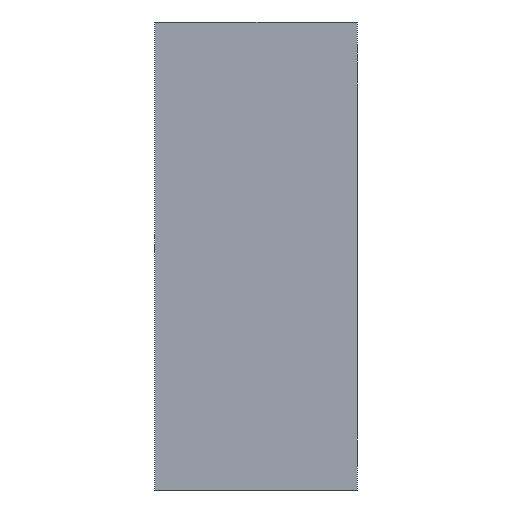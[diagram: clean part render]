
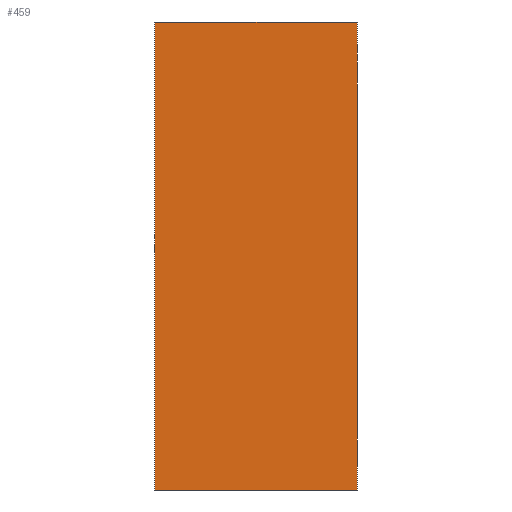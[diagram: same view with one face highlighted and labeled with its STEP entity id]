
A CAD part, left-side view. The second image highlights one B-rep face of the part: STEP entity #459.
In plain terms, the highlighted planar face has unit normal (-1, 0, 0).
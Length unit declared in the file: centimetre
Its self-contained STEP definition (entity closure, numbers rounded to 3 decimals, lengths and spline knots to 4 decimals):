
#28=PLANE('',#501);
#52=FACE_OUTER_BOUND('',#77,.T.);
#77=EDGE_LOOP('',(#382,#383,#384,#385));
#120=LINE('',#744,#164);
#121=LINE('',#747,#165);
#122=LINE('',#749,#166);
#123=LINE('',#750,#167);
#164=VECTOR('',#617,2.6);
#165=VECTOR('',#620,6.);
#166=VECTOR('',#621,6.);
#167=VECTOR('',#622,2.6);
#222=VERTEX_POINT('',#740);
#223=VERTEX_POINT('',#742);
#224=VERTEX_POINT('',#746);
#225=VERTEX_POINT('',#748);
#280=EDGE_CURVE('',#222,#223,#120,.T.);
#281=EDGE_CURVE('',#224,#222,#121,.T.);
#282=EDGE_CURVE('',#225,#223,#122,.T.);
#283=EDGE_CURVE('',#224,#225,#123,.T.);
#382=ORIENTED_EDGE('',*,*,#281,.T.);
#383=ORIENTED_EDGE('',*,*,#280,.T.);
#384=ORIENTED_EDGE('',*,*,#282,.F.);
#385=ORIENTED_EDGE('',*,*,#283,.F.);
#459=ADVANCED_FACE('',(#52),#28,.T.);
#501=AXIS2_PLACEMENT_3D('',#745,#618,#619);
#617=DIRECTION('',(0.,1.,0.));
#618=DIRECTION('center_axis',(-1.,0.,0.));
#619=DIRECTION('ref_axis',(0.,0.,1.));
#620=DIRECTION('',(0.,0.,1.));
#621=DIRECTION('',(0.,0.,1.));
#622=DIRECTION('',(0.,1.,0.));
#740=CARTESIAN_POINT('',(-15.,1.65,3.));
#742=CARTESIAN_POINT('',(-15.,4.25,3.));
#744=CARTESIAN_POINT('',(-15.,1.65,3.));
#745=CARTESIAN_POINT('Origin',(-15.,1.65,-3.));
#746=CARTESIAN_POINT('',(-15.,1.65,-3.));
#747=CARTESIAN_POINT('',(-15.,1.65,-3.));
#748=CARTESIAN_POINT('',(-15.,4.25,-3.));
#749=CARTESIAN_POINT('',(-15.,4.25,-3.));
#750=CARTESIAN_POINT('',(-15.,1.65,-3.));
